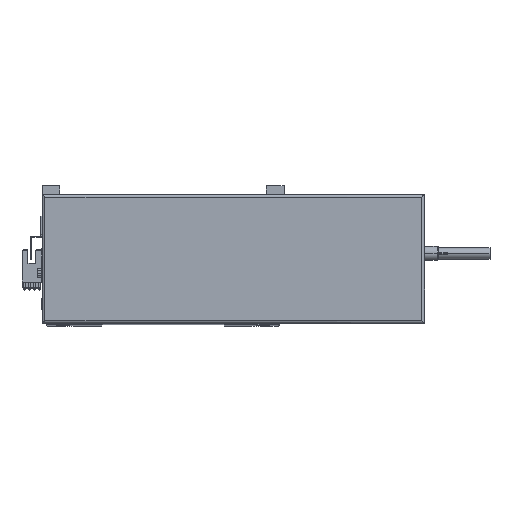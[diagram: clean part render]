
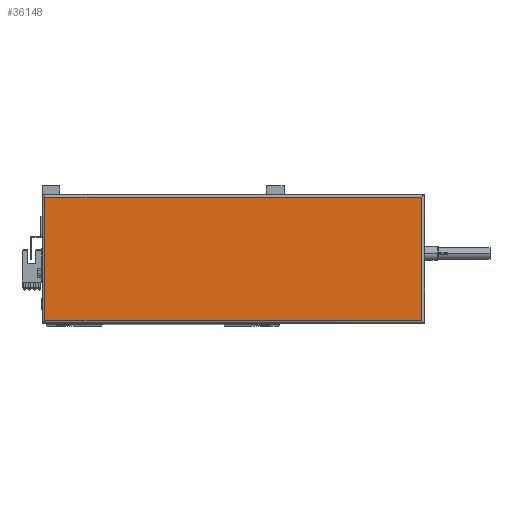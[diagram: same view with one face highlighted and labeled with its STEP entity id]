
A CAD part, top view. The second image highlights one B-rep face of the part: STEP entity #36148.
In plain terms, the highlighted planar face has unit normal (0, 0, 1).
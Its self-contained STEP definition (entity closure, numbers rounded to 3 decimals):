
#388 = VECTOR ( 'NONE', #34777, 1000. ) ;
#456 = EDGE_LOOP ( 'NONE', ( #23832, #24799, #512, #46569 ) ) ;
#512 = ORIENTED_EDGE ( 'NONE', *, *, #29004, .T. ) ;
#4054 = PLANE ( 'NONE',  #30742 ) ;
#4228 = DIRECTION ( 'NONE',  ( 0., 0., 1. ) ) ;
#4619 = CARTESIAN_POINT ( 'NONE',  ( 0., 88., 44.8 ) ) ;
#6869 = VERTEX_POINT ( 'NONE', #25461 ) ;
#7576 = CARTESIAN_POINT ( 'NONE',  ( 265., 2., 44.8 ) ) ;
#8703 = LINE ( 'NONE', #9712, #12388 ) ;
#9712 = CARTESIAN_POINT ( 'NONE',  ( 267., 2., 44.8 ) ) ;
#11890 = CARTESIAN_POINT ( 'NONE',  ( 265., 88., 44.8 ) ) ;
#12334 = VECTOR ( 'NONE', #46962, 1000. ) ;
#12388 = VECTOR ( 'NONE', #40650, 1000. ) ;
#15575 = DIRECTION ( 'NONE',  ( 0., 1., 0. ) ) ;
#19012 = VECTOR ( 'NONE', #15575, 1000. ) ;
#22525 = VERTEX_POINT ( 'NONE', #7576 ) ;
#23632 = DIRECTION ( 'NONE',  ( 1., 0., 0. ) ) ;
#23832 = ORIENTED_EDGE ( 'NONE', *, *, #45492, .T. ) ;
#23892 = EDGE_CURVE ( 'NONE', #38730, #6869, #39662, .T. ) ;
#24799 = ORIENTED_EDGE ( 'NONE', *, *, #23892, .T. ) ;
#25461 = CARTESIAN_POINT ( 'NONE',  ( 2., 88., 44.8 ) ) ;
#27140 = CARTESIAN_POINT ( 'NONE',  ( 2., 0., 44.8 ) ) ;
#27160 = LINE ( 'NONE', #27140, #388 ) ;
#28114 = FACE_OUTER_BOUND ( 'NONE', #456, .T. ) ;
#29004 = EDGE_CURVE ( 'NONE', #6869, #49043, #27160, .T. ) ;
#30742 = AXIS2_PLACEMENT_3D ( 'NONE', #43156, #4228, #23632 ) ;
#30821 = CARTESIAN_POINT ( 'NONE',  ( 265., 90., 44.8 ) ) ;
#34777 = DIRECTION ( 'NONE',  ( 0., -1., 0. ) ) ;
#36148 = ADVANCED_FACE ( 'NONE', ( #28114 ), #4054, .T. ) ;
#38730 = VERTEX_POINT ( 'NONE', #11890 ) ;
#39662 = LINE ( 'NONE', #4619, #12334 ) ;
#40650 = DIRECTION ( 'NONE',  ( 1., 0., 0. ) ) ;
#43156 = CARTESIAN_POINT ( 'NONE',  ( 133.5, 45., 44.8 ) ) ;
#45046 = CARTESIAN_POINT ( 'NONE',  ( 2., 2., 44.8 ) ) ;
#45492 = EDGE_CURVE ( 'NONE', #22525, #38730, #46975, .T. ) ;
#46214 = EDGE_CURVE ( 'NONE', #49043, #22525, #8703, .T. ) ;
#46569 = ORIENTED_EDGE ( 'NONE', *, *, #46214, .T. ) ;
#46962 = DIRECTION ( 'NONE',  ( -1., 0., 0. ) ) ;
#46975 = LINE ( 'NONE', #30821, #19012 ) ;
#49043 = VERTEX_POINT ( 'NONE', #45046 ) ;
